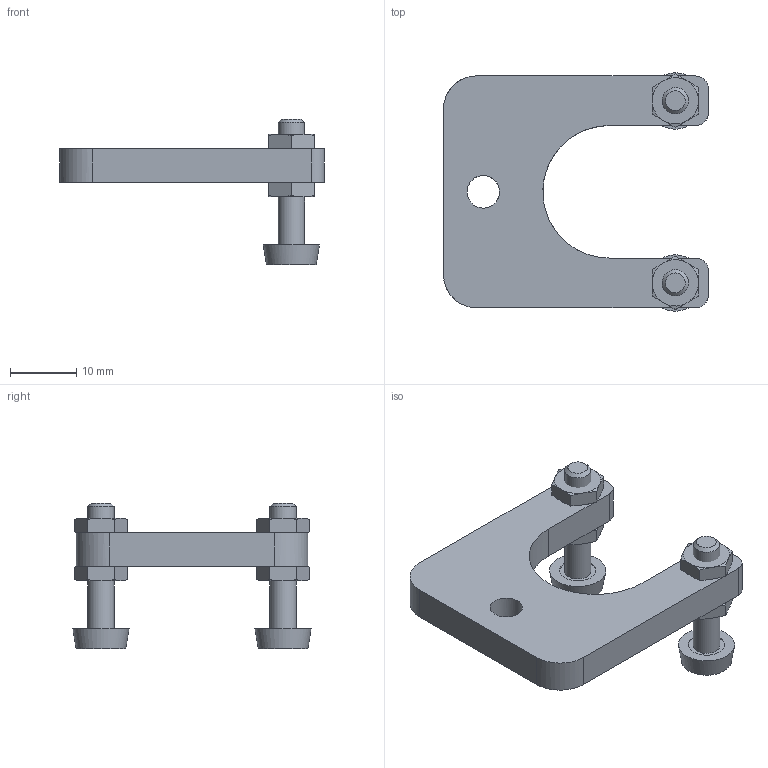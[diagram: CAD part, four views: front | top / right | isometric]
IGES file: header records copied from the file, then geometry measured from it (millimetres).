
Global section: file name: 94.00; native system: Autodesk Inventor 2014; preprocessor: unknown; author: APto; date: 20160505.154241; units: millimetre
Bounding box: 40 x 35.98 x 22 mm (x, y, z)
Volume: 5531.9 mm3; surface area: 4436.4 mm2
Topology: 9 solids, 9 shells, 125 faces, 282 edges, 179 vertices
Faces by surface type: bspline 125
